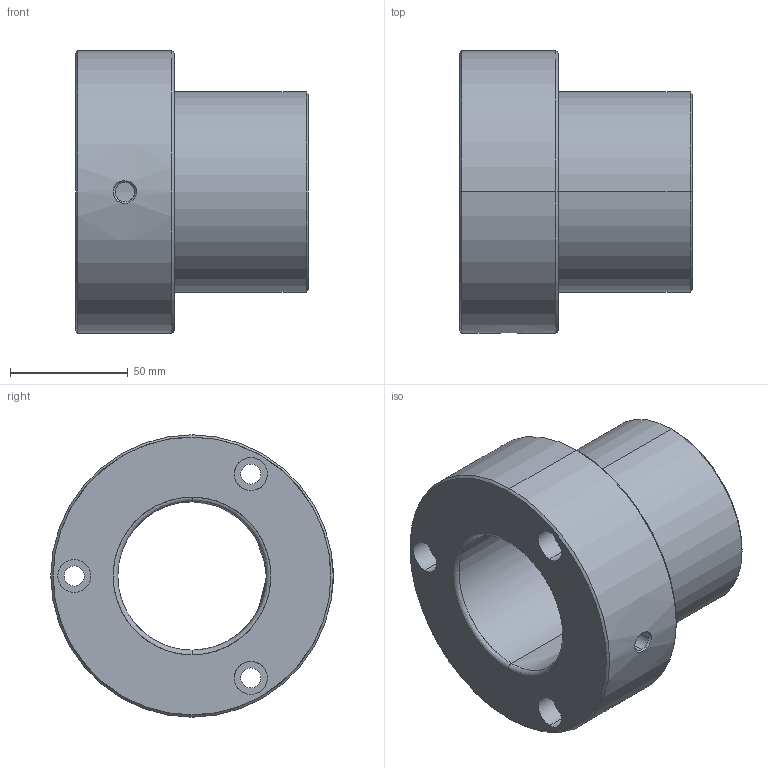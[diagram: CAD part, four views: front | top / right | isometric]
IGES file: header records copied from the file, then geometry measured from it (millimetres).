
Start section: START RECORD GO HERE.
Global section: file name: 346-63.igs; native system: DASSAULT SYSTEMES CATIA V5 R20 - www.3ds.com; preprocessor: CATIA Version 5 Release 20 ; author: Utente; organization: NB04-ASUS; date: 20201225.222939; units: millimetre
Bounding box: 99 x 120 x 120 mm (x, y, z)
Surface area: 70447.5 mm2 (no closed solid volume)
Topology: 0 solids, 0 shells, 39 faces, 352 edges, 352 vertices
Faces by surface type: revolution 32, plane 7
